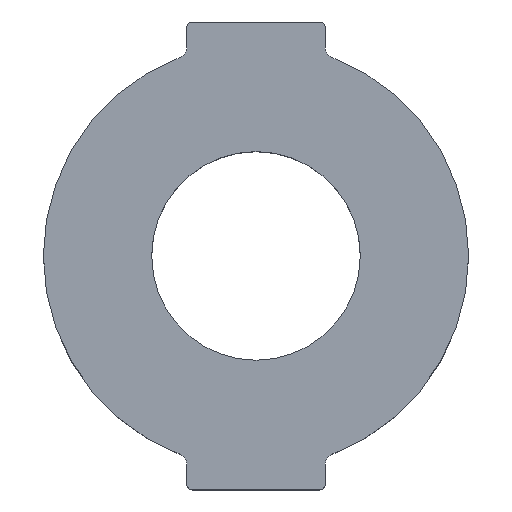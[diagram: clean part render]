
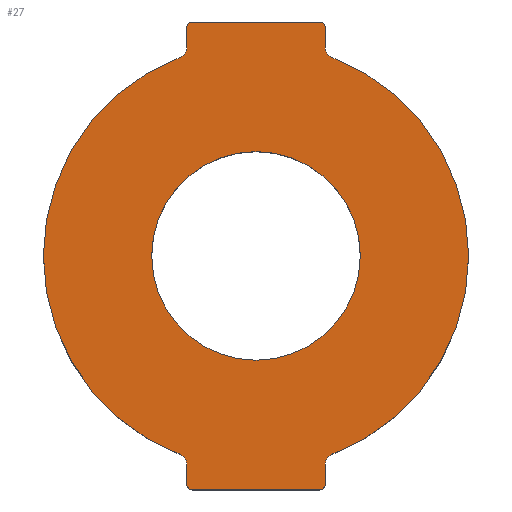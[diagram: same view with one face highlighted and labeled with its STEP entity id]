
A CAD part, top view. The second image highlights one B-rep face of the part: STEP entity #27.
In plain terms, the highlighted planar face has unit normal (0, 0, 1).
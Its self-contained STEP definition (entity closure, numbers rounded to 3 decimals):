
#1 = VERTEX_POINT ( 'NONE', #623 ) ;
#2 = VERTEX_POINT ( 'NONE', #622 ) ;
#3 = VERTEX_POINT ( 'NONE', #626 ) ;
#4 = VERTEX_POINT ( 'NONE', #630 ) ;
#7 = VERTEX_POINT ( 'NONE', #645 ) ;
#8 = VERTEX_POINT ( 'NONE', #632 ) ;
#9 = VERTEX_POINT ( 'NONE', #625 ) ;
#10 = VERTEX_POINT ( 'NONE', #624 ) ;
#11 = VERTEX_POINT ( 'NONE', #583 ) ;
#12 = VERTEX_POINT ( 'NONE', #618 ) ;
#14 = VERTEX_POINT ( 'NONE', #616 ) ;
#15 = VERTEX_POINT ( 'NONE', #610 ) ;
#16 = VERTEX_POINT ( 'NONE', #577 ) ;
#27 = ADVANCED_FACE ( 'NONE', ( #108, #105 ), #634, .T. ) ;
#31 = AXIS2_PLACEMENT_3D ( 'NONE', #316, #317, #318 ) ;
#32 = AXIS2_PLACEMENT_3D ( 'NONE', #319, #320, #321 ) ;
#35 = AXIS2_PLACEMENT_3D ( 'NONE', #336, #337, #338 ) ;
#36 = AXIS2_PLACEMENT_3D ( 'NONE', #339, #340, #341 ) ;
#37 = AXIS2_PLACEMENT_3D ( 'NONE', #342, #343, #344 ) ;
#38 = AXIS2_PLACEMENT_3D ( 'NONE', #347, #348, #349 ) ;
#39 = AXIS2_PLACEMENT_3D ( 'NONE', #352, #353, #354 ) ;
#40 = AXIS2_PLACEMENT_3D ( 'NONE', #357, #358, #359 ) ;
#41 = AXIS2_PLACEMENT_3D ( 'NONE', #362, #363, #364 ) ;
#42 = AXIS2_PLACEMENT_3D ( 'NONE', #365, #366, #367 ) ;
#43 = AXIS2_PLACEMENT_3D ( 'NONE', #369, #370, #371 ) ;
#105 = FACE_BOUND ( 'NONE', #129, .T. ) ;
#108 = FACE_OUTER_BOUND ( 'NONE', #134, .T. ) ;
#129 = EDGE_LOOP ( 'NONE', ( #178 ) ) ;
#134 = EDGE_LOOP ( 'NONE', ( #169, #183, #170, #176, #177, #182, #179, #167, #171, #174, #175, #173, #168, #172, #180, #181 ) ) ;
#167 = ORIENTED_EDGE ( 'NONE', *, *, #782, .T. ) ;
#168 = ORIENTED_EDGE ( 'NONE', *, *, #774, .T. ) ;
#169 = ORIENTED_EDGE ( 'NONE', *, *, #779, .T. ) ;
#170 = ORIENTED_EDGE ( 'NONE', *, *, #775, .T. ) ;
#171 = ORIENTED_EDGE ( 'NONE', *, *, #783, .T. ) ;
#172 = ORIENTED_EDGE ( 'NONE', *, *, #773, .T. ) ;
#173 = ORIENTED_EDGE ( 'NONE', *, *, #786, .T. ) ;
#174 = ORIENTED_EDGE ( 'NONE', *, *, #784, .T. ) ;
#175 = ORIENTED_EDGE ( 'NONE', *, *, #785, .T. ) ;
#176 = ORIENTED_EDGE ( 'NONE', *, *, #776, .T. ) ;
#177 = ORIENTED_EDGE ( 'NONE', *, *, #778, .T. ) ;
#178 = ORIENTED_EDGE ( 'NONE', *, *, #766, .F. ) ;
#179 = ORIENTED_EDGE ( 'NONE', *, *, #781, .T. ) ;
#180 = ORIENTED_EDGE ( 'NONE', *, *, #772, .T. ) ;
#181 = ORIENTED_EDGE ( 'NONE', *, *, #765, .T. ) ;
#182 = ORIENTED_EDGE ( 'NONE', *, *, #780, .T. ) ;
#183 = ORIENTED_EDGE ( 'NONE', *, *, #777, .T. ) ;
#238 = VERTEX_POINT ( 'NONE', #607 ) ;
#286 = VERTEX_POINT ( 'NONE', #598 ) ;
#287 = VERTEX_POINT ( 'NONE', #599 ) ;
#316 = CARTESIAN_POINT ( 'NONE',  ( -6., -21.5, 12. ) ) ;
#317 = DIRECTION ( 'NONE',  ( 0., 0., 1. ) ) ;
#318 = DIRECTION ( 'NONE',  ( 1., 0., 0. ) ) ;
#319 = CARTESIAN_POINT ( 'NONE',  ( 0., 0., 12. ) ) ;
#320 = DIRECTION ( 'NONE',  ( 0., 0., 1. ) ) ;
#321 = DIRECTION ( 'NONE',  ( 1., 0., 0. ) ) ;
#329 = CARTESIAN_POINT ( 'NONE',  ( -6.5, -18.914, 12. ) ) ;
#333 = DIRECTION ( 'NONE',  ( 0., -1., 0. ) ) ;
#334 = CARTESIAN_POINT ( 'NONE',  ( 6.5, -18.914, 12. ) ) ;
#335 = DIRECTION ( 'NONE',  ( 0., 1., 0. ) ) ;
#336 = CARTESIAN_POINT ( 'NONE',  ( -7.5, -19.615, 12. ) ) ;
#337 = DIRECTION ( 'NONE',  ( 0., 0., -1. ) ) ;
#338 = DIRECTION ( 'NONE',  ( 1., 0., 0. ) ) ;
#339 = CARTESIAN_POINT ( 'NONE',  ( 0., 0., 12. ) ) ;
#340 = DIRECTION ( 'NONE',  ( 0., 0., 1. ) ) ;
#341 = DIRECTION ( 'NONE',  ( 1., 0., 0. ) ) ;
#342 = CARTESIAN_POINT ( 'NONE',  ( 7.5, -19.615, 12. ) ) ;
#343 = DIRECTION ( 'NONE',  ( 0., 0., -1. ) ) ;
#344 = DIRECTION ( 'NONE',  ( 1., 0., 0. ) ) ;
#345 = CARTESIAN_POINT ( 'NONE',  ( 6.5, -22., 12. ) ) ;
#346 = DIRECTION ( 'NONE',  ( 1., 0., 0. ) ) ;
#347 = CARTESIAN_POINT ( 'NONE',  ( 6., -21.5, 12. ) ) ;
#348 = DIRECTION ( 'NONE',  ( 0., 0., 1. ) ) ;
#349 = DIRECTION ( 'NONE',  ( 1., 0., 0. ) ) ;
#350 = CARTESIAN_POINT ( 'NONE',  ( 6.5, 22., 12. ) ) ;
#351 = DIRECTION ( 'NONE',  ( 0., 1., 0. ) ) ;
#352 = CARTESIAN_POINT ( 'NONE',  ( 0., 0., 12. ) ) ;
#353 = DIRECTION ( 'NONE',  ( 0., 0., 1. ) ) ;
#354 = DIRECTION ( 'NONE',  ( 1., 0., 0. ) ) ;
#355 = CARTESIAN_POINT ( 'NONE',  ( 6.5, 22., 12. ) ) ;
#356 = DIRECTION ( 'NONE',  ( -1., 0., 0. ) ) ;
#357 = CARTESIAN_POINT ( 'NONE',  ( 7.5, 19.615, 12. ) ) ;
#358 = DIRECTION ( 'NONE',  ( 0., 0., -1. ) ) ;
#359 = DIRECTION ( 'NONE',  ( 1., 0., 0. ) ) ;
#360 = CARTESIAN_POINT ( 'NONE',  ( -6.5, 22., 12. ) ) ;
#361 = DIRECTION ( 'NONE',  ( 0., -1., 0. ) ) ;
#362 = CARTESIAN_POINT ( 'NONE',  ( 6., 21.5, 12. ) ) ;
#363 = DIRECTION ( 'NONE',  ( 0., 0., 1. ) ) ;
#364 = DIRECTION ( 'NONE',  ( 1., 0., 0. ) ) ;
#365 = CARTESIAN_POINT ( 'NONE',  ( -6., 21.5, 12. ) ) ;
#366 = DIRECTION ( 'NONE',  ( 0., 0., 1. ) ) ;
#367 = DIRECTION ( 'NONE',  ( 1., 0., 0. ) ) ;
#369 = CARTESIAN_POINT ( 'NONE',  ( -7.5, 19.615, 12. ) ) ;
#370 = DIRECTION ( 'NONE',  ( 0., 0., -1. ) ) ;
#371 = DIRECTION ( 'NONE',  ( 1., 0., 0. ) ) ;
#442 = VERTEX_POINT ( 'NONE', #682 ) ;
#493 = VECTOR ( 'NONE', #361, 1000. ) ;
#494 = CIRCLE ( 'NONE', #43, 1. ) ;
#495 = LINE ( 'NONE', #360, #493 ) ;
#496 = VECTOR ( 'NONE', #356, 1000. ) ;
#497 = CIRCLE ( 'NONE', #42, 0.5 ) ;
#498 = LINE ( 'NONE', #355, #496 ) ;
#499 = VECTOR ( 'NONE', #351, 1000. ) ;
#500 = CIRCLE ( 'NONE', #41, 0.5 ) ;
#501 = LINE ( 'NONE', #350, #499 ) ;
#502 = VECTOR ( 'NONE', #346, 1000. ) ;
#503 = CIRCLE ( 'NONE', #40, 1. ) ;
#504 = LINE ( 'NONE', #345, #502 ) ;
#505 = CIRCLE ( 'NONE', #39, 20. ) ;
#507 = CIRCLE ( 'NONE', #38, 0.5 ) ;
#508 = VECTOR ( 'NONE', #335, 1000. ) ;
#509 = CIRCLE ( 'NONE', #37, 1. ) ;
#510 = LINE ( 'NONE', #334, #508 ) ;
#512 = CIRCLE ( 'NONE', #36, 20. ) ;
#513 = VECTOR ( 'NONE', #333, 1000. ) ;
#514 = CIRCLE ( 'NONE', #35, 1. ) ;
#519 = LINE ( 'NONE', #329, #513 ) ;
#531 = CIRCLE ( 'NONE', #31, 0.5 ) ;
#533 = CIRCLE ( 'NONE', #32, 9.81 ) ;
#577 = CARTESIAN_POINT ( 'NONE',  ( 7.143, 18.681, 12. ) ) ;
#583 = CARTESIAN_POINT ( 'NONE',  ( 6., 22., 12. ) ) ;
#598 = CARTESIAN_POINT ( 'NONE',  ( -6.5, -19.615, 12. ) ) ;
#599 = CARTESIAN_POINT ( 'NONE',  ( -6.5, -21.5, 12. ) ) ;
#607 = CARTESIAN_POINT ( 'NONE',  ( -7.143, -18.681, 12. ) ) ;
#610 = CARTESIAN_POINT ( 'NONE',  ( -6., 22., 12. ) ) ;
#616 = CARTESIAN_POINT ( 'NONE',  ( -6., -22., 12. ) ) ;
#618 = CARTESIAN_POINT ( 'NONE',  ( 6.5, -21.5, 12. ) ) ;
#619 = DIRECTION ( 'NONE',  ( 1., 0., 0. ) ) ;
#620 = DIRECTION ( 'NONE',  ( 0., 0., 1. ) ) ;
#622 = CARTESIAN_POINT ( 'NONE',  ( 7.143, -18.681, 12. ) ) ;
#623 = CARTESIAN_POINT ( 'NONE',  ( -6.5, 21.5, 12. ) ) ;
#624 = CARTESIAN_POINT ( 'NONE',  ( 6.5, 21.5, 12. ) ) ;
#625 = CARTESIAN_POINT ( 'NONE',  ( 6.5, 19.615, 12. ) ) ;
#626 = CARTESIAN_POINT ( 'NONE',  ( -7.143, 18.681, 12. ) ) ;
#630 = CARTESIAN_POINT ( 'NONE',  ( -6.5, 19.615, 12. ) ) ;
#632 = CARTESIAN_POINT ( 'NONE',  ( 6., -22., 12. ) ) ;
#633 = CARTESIAN_POINT ( 'NONE',  ( 0., 0., 12. ) ) ;
#634 = PLANE ( 'NONE',  #829 ) ;
#645 = CARTESIAN_POINT ( 'NONE',  ( 6.5, -19.615, 12. ) ) ;
#682 = CARTESIAN_POINT ( 'NONE',  ( 9.81, 0., 12. ) ) ;
#765 = EDGE_CURVE ( 'NONE', #287, #14, #531, .T. ) ;
#766 = EDGE_CURVE ( 'NONE', #442, #442, #533, .T. ) ;
#772 = EDGE_CURVE ( 'NONE', #286, #287, #519, .T. ) ;
#773 = EDGE_CURVE ( 'NONE', #238, #286, #514, .T. ) ;
#774 = EDGE_CURVE ( 'NONE', #3, #238, #512, .T. ) ;
#775 = EDGE_CURVE ( 'NONE', #12, #7, #510, .T. ) ;
#776 = EDGE_CURVE ( 'NONE', #7, #2, #509, .T. ) ;
#777 = EDGE_CURVE ( 'NONE', #8, #12, #507, .T. ) ;
#778 = EDGE_CURVE ( 'NONE', #2, #16, #505, .T. ) ;
#779 = EDGE_CURVE ( 'NONE', #14, #8, #504, .T. ) ;
#780 = EDGE_CURVE ( 'NONE', #16, #9, #503, .T. ) ;
#781 = EDGE_CURVE ( 'NONE', #9, #10, #501, .T. ) ;
#782 = EDGE_CURVE ( 'NONE', #10, #11, #500, .T. ) ;
#783 = EDGE_CURVE ( 'NONE', #11, #15, #498, .T. ) ;
#784 = EDGE_CURVE ( 'NONE', #15, #1, #497, .T. ) ;
#785 = EDGE_CURVE ( 'NONE', #1, #4, #495, .T. ) ;
#786 = EDGE_CURVE ( 'NONE', #4, #3, #494, .T. ) ;
#829 = AXIS2_PLACEMENT_3D ( 'NONE', #633, #620, #619 ) ;
